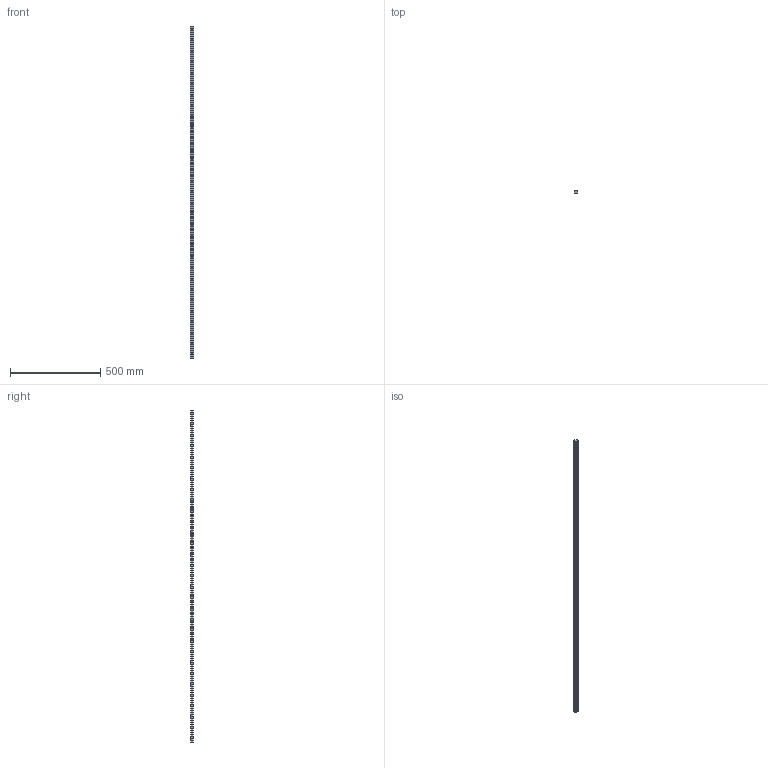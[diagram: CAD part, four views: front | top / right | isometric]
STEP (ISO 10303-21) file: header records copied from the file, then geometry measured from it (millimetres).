
FILE_DESCRIPTION (( 'STEP AP203' ), '1' );
FILE_NAME ('L1016.BL20-1840.step', '2019-06-12T11:50:48', ( '' ), ( '' ), 'SwSTEP 2.0', 'SolidWorks 2017', '' );
FILE_SCHEMA (( 'CONFIG_CONTROL_DESIGN' ));
Length unit declared in the file: millimetre
Products named in the file (1): L1016.BL20-1840
Bounding box: 20 x 16.3 x 1840 mm (x, y, z)
Volume: 511369.6 mm3; surface area: 148260.9 mm2
Topology: 1 solids, 1 shells, 181 faces, 444 edges, 296 vertices
Faces by surface type: cylinder 128, plane 53
Entity records: 5675 total; most frequent: DIRECTION 1064, CARTESIAN_POINT 922, ORIENTED_EDGE 888, EDGE_CURVE 444, AXIS2_PLACEMENT_3D 438, VERTEX_POINT 296, EDGE_LOOP 274, CIRCLE 256
